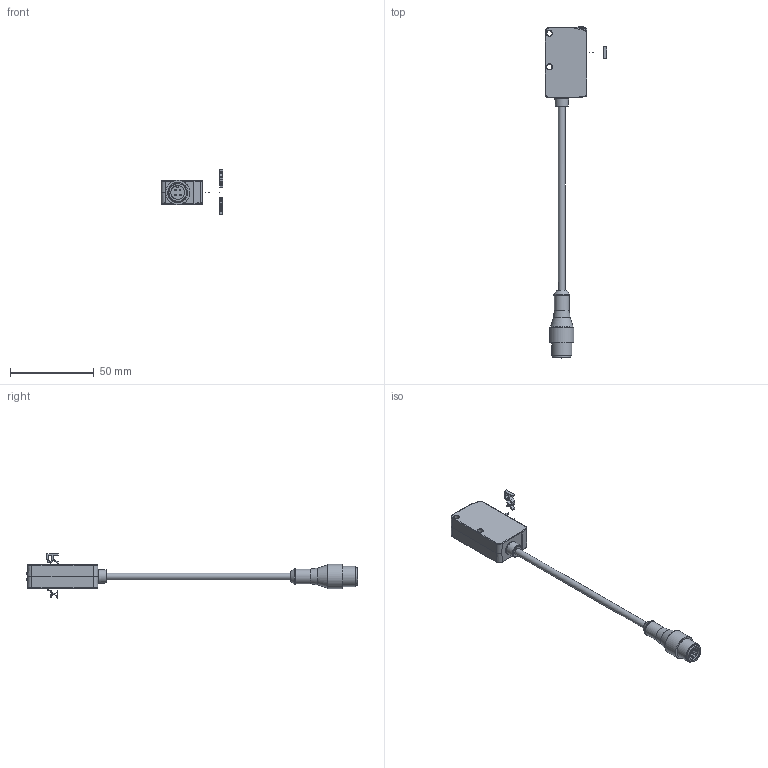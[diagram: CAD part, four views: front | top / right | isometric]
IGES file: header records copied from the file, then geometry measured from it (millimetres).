
Start section: JAMA-IS VERSION  1.0
Global section: file name: D:\CS\IDF\TESTPCB\DSD-0192.igs; native system: NX V12.0; preprocessor: SIEMENS PLM Software NX 12.0; date: 200921.094807; units: millimetre
Bounding box: 37 x 198.3 x 26.68 mm (x, y, z)
Surface area: 8735.6 mm2 (no closed solid volume)
Topology: 0 solids, 0 shells, 468 faces, 2934 edges, 2860 vertices
Faces by surface type: bspline 468
